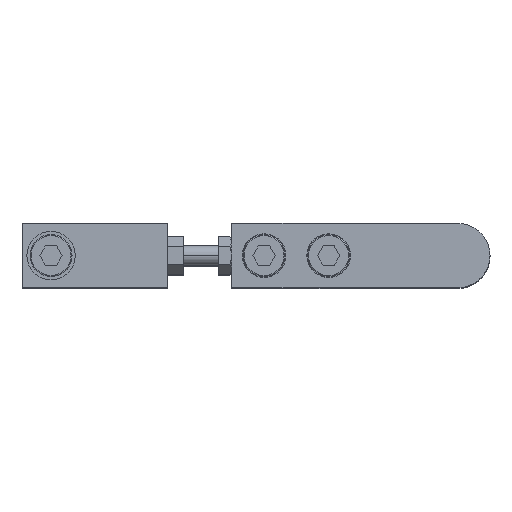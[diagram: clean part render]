
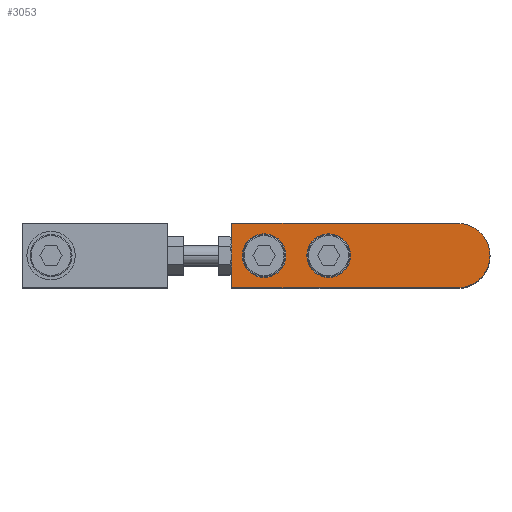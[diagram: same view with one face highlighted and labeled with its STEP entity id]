
A CAD part, top view. The second image highlights one B-rep face of the part: STEP entity #3053.
In plain terms, the highlighted planar face has unit normal (0, 0, 1) as drawn and (0, 0, -1) by its records, which use the part's own axes.
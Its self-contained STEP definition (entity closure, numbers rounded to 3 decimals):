
#2 = CARTESIAN_POINT ( 'NONE',  ( 70., 10., -5. ) ) ;
#18 = CARTESIAN_POINT ( 'NONE',  ( 33.25, 0., -5. ) ) ;
#230 = DIRECTION ( 'NONE',  ( 0., 0., 1. ) ) ;
#337 = EDGE_CURVE ( 'NONE', #4502, #4090, #4340, .T. ) ;
#419 = VECTOR ( 'NONE', #4301, 1000. ) ;
#440 = VERTEX_POINT ( 'NONE', #6510 ) ;
#448 = CARTESIAN_POINT ( 'NONE',  ( -10., 0., -5. ) ) ;
#672 = ORIENTED_EDGE ( 'NONE', *, *, #2420, .F. ) ;
#702 = CIRCLE ( 'NONE', #6118, 10. ) ;
#727 = CARTESIAN_POINT ( 'NONE',  ( 0., -10., -5. ) ) ;
#953 = CARTESIAN_POINT ( 'NONE',  ( 70., -10., -5. ) ) ;
#1084 = DIRECTION ( 'NONE',  ( 0., 0., 1. ) ) ;
#1090 = CARTESIAN_POINT ( 'NONE',  ( 0., -10., -5. ) ) ;
#1162 = CARTESIAN_POINT ( 'NONE',  ( 0., 0., -5. ) ) ;
#1352 = EDGE_CURVE ( 'NONE', #2337, #1503, #2752, .T. ) ;
#1503 = VERTEX_POINT ( 'NONE', #2 ) ;
#1636 = FACE_BOUND ( 'NONE', #6852, .T. ) ;
#1653 = LINE ( 'NONE', #1090, #3493 ) ;
#1655 = ORIENTED_EDGE ( 'NONE', *, *, #3185, .F. ) ;
#1876 = CARTESIAN_POINT ( 'NONE',  ( 0., 0., -5. ) ) ;
#1886 = AXIS2_PLACEMENT_3D ( 'NONE', #5133, #4543, #2841 ) ;
#2112 = EDGE_CURVE ( 'NONE', #440, #5379, #702, .T. ) ;
#2258 = DIRECTION ( 'NONE',  ( 1., 0., 0. ) ) ;
#2337 = VERTEX_POINT ( 'NONE', #953 ) ;
#2379 = DIRECTION ( 'NONE',  ( -1., 0., 0. ) ) ;
#2393 = DIRECTION ( 'NONE',  ( -1., 0., 0. ) ) ;
#2420 = EDGE_CURVE ( 'NONE', #5733, #2337, #1653, .T. ) ;
#2433 = CIRCLE ( 'NONE', #4299, 6.75 ) ;
#2551 = CARTESIAN_POINT ( 'NONE',  ( 53.25, 0., -5. ) ) ;
#2736 = CIRCLE ( 'NONE', #4728, 6.75 ) ;
#2752 = LINE ( 'NONE', #3461, #5691 ) ;
#2841 = DIRECTION ( 'NONE',  ( -1., 0., 0. ) ) ;
#3053 = ADVANCED_FACE ( 'NONE', ( #6325, #1636, #5869 ), #3122, .F. ) ;
#3122 = PLANE ( 'NONE',  #6306 ) ;
#3157 = DIRECTION ( 'NONE',  ( 1., 0., 0. ) ) ;
#3185 = EDGE_CURVE ( 'NONE', #1503, #440, #4396, .T. ) ;
#3326 = EDGE_CURVE ( 'NONE', #4077, #7154, #2736, .T. ) ;
#3421 = DIRECTION ( 'NONE',  ( 1., 0., 0. ) ) ;
#3461 = CARTESIAN_POINT ( 'NONE',  ( 70., 10., -5. ) ) ;
#3469 = CARTESIAN_POINT ( 'NONE',  ( 60., 0., -5. ) ) ;
#3493 = VECTOR ( 'NONE', #2258, 1000. ) ;
#3736 = ORIENTED_EDGE ( 'NONE', *, *, #4887, .F. ) ;
#3743 = EDGE_LOOP ( 'NONE', ( #6945, #1655, #4529, #672, #7005 ) ) ;
#3978 = EDGE_CURVE ( 'NONE', #4090, #4502, #2433, .T. ) ;
#4077 = VERTEX_POINT ( 'NONE', #2551 ) ;
#4090 = VERTEX_POINT ( 'NONE', #6029 ) ;
#4249 = CIRCLE ( 'NONE', #5878, 10. ) ;
#4299 = AXIS2_PLACEMENT_3D ( 'NONE', #5694, #6936, #2379 ) ;
#4301 = DIRECTION ( 'NONE',  ( -1., 0., 0. ) ) ;
#4340 = CIRCLE ( 'NONE', #6594, 6.75 ) ;
#4396 = LINE ( 'NONE', #4781, #419 ) ;
#4502 = VERTEX_POINT ( 'NONE', #18 ) ;
#4529 = ORIENTED_EDGE ( 'NONE', *, *, #1352, .F. ) ;
#4543 = DIRECTION ( 'NONE',  ( 0., 0., -1. ) ) ;
#4682 = CARTESIAN_POINT ( 'NONE',  ( 40., 0., -5. ) ) ;
#4709 = DIRECTION ( 'NONE',  ( 0., 0., -1. ) ) ;
#4728 = AXIS2_PLACEMENT_3D ( 'NONE', #3469, #5235, #2393 ) ;
#4781 = CARTESIAN_POINT ( 'NONE',  ( 0., 10., -5. ) ) ;
#4875 = CARTESIAN_POINT ( 'NONE',  ( 66.75, 0., -5. ) ) ;
#4887 = EDGE_CURVE ( 'NONE', #7154, #4077, #5019, .T. ) ;
#5019 = CIRCLE ( 'NONE', #1886, 6.75 ) ;
#5133 = CARTESIAN_POINT ( 'NONE',  ( 60., 0., -5. ) ) ;
#5227 = DIRECTION ( 'NONE',  ( 0., 1., 0. ) ) ;
#5235 = DIRECTION ( 'NONE',  ( 0., 0., -1. ) ) ;
#5379 = VERTEX_POINT ( 'NONE', #448 ) ;
#5402 = EDGE_LOOP ( 'NONE', ( #5609, #3736 ) ) ;
#5545 = CARTESIAN_POINT ( 'NONE',  ( 0., 0., -5. ) ) ;
#5609 = ORIENTED_EDGE ( 'NONE', *, *, #3326, .F. ) ;
#5691 = VECTOR ( 'NONE', #5227, 1000. ) ;
#5694 = CARTESIAN_POINT ( 'NONE',  ( 40., 0., -5. ) ) ;
#5733 = VERTEX_POINT ( 'NONE', #727 ) ;
#5798 = DIRECTION ( 'NONE',  ( -1., 0., 0. ) ) ;
#5869 = FACE_OUTER_BOUND ( 'NONE', #3743, .T. ) ;
#5878 = AXIS2_PLACEMENT_3D ( 'NONE', #1162, #1084, #3421 ) ;
#6011 = ORIENTED_EDGE ( 'NONE', *, *, #3978, .F. ) ;
#6016 = DIRECTION ( 'NONE',  ( 0., 0., 1. ) ) ;
#6029 = CARTESIAN_POINT ( 'NONE',  ( 46.75, 0., -5. ) ) ;
#6118 = AXIS2_PLACEMENT_3D ( 'NONE', #1876, #6016, #3157 ) ;
#6163 = DIRECTION ( 'NONE',  ( 1., 0., 0. ) ) ;
#6306 = AXIS2_PLACEMENT_3D ( 'NONE', #5545, #230, #6163 ) ;
#6325 = FACE_BOUND ( 'NONE', #5402, .T. ) ;
#6510 = CARTESIAN_POINT ( 'NONE',  ( 0., 10., -5. ) ) ;
#6594 = AXIS2_PLACEMENT_3D ( 'NONE', #4682, #4709, #5798 ) ;
#6787 = EDGE_CURVE ( 'NONE', #5379, #5733, #4249, .T. ) ;
#6852 = EDGE_LOOP ( 'NONE', ( #7593, #6011 ) ) ;
#6936 = DIRECTION ( 'NONE',  ( 0., 0., -1. ) ) ;
#6945 = ORIENTED_EDGE ( 'NONE', *, *, #2112, .F. ) ;
#7005 = ORIENTED_EDGE ( 'NONE', *, *, #6787, .F. ) ;
#7154 = VERTEX_POINT ( 'NONE', #4875 ) ;
#7593 = ORIENTED_EDGE ( 'NONE', *, *, #337, .F. ) ;
